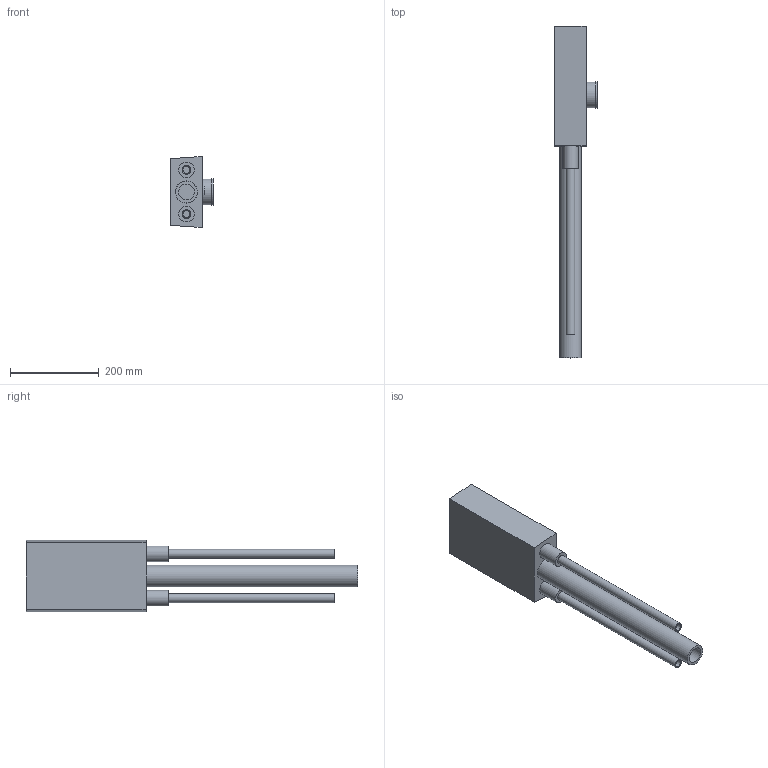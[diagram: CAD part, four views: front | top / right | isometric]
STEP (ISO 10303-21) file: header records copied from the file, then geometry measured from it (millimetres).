
FILE_DESCRIPTION(/* description */ (''),/* implementation_level */ '2;1');
FILE_NAME(/* name */ '\\lg50011\SANHA_LEGNICA\Engineering\Public\PROJEKTY\SANHA-BOX_Support_BiR\002-Rysunki_Boxów\25-WT-M\325WTM20.stp',/* time_stamp */ '2018-12-11T08:16:04+01:00',/* author */ ('grzegorz.juzak'),/* organization */ (''),/* preprocessor_version */ 'ST-DEVELOPER v17',/* originating_system */ 'Autodesk Inventor 2019',/* authorisation */ '');
FILE_SCHEMA (('AUTOMOTIVE_DESIGN { 1 0 10303 214 3 1 1 }'));
Length unit declared in the file: millimetre
Products named in the file (5): 325WTM20; Rura_50; Kolano_DN50-OD50_Master3; 325WTM20_1; Rura_20x2
Assembly tree (5 placements, depth 2):
  325WTM20
    Rura_50
    Kolano_DN50-OD50_Master3
    325WTM20_1
    Rura_20x2  x2
Bounding box: 94.93 x 746.91 x 160 mm (x, y, z)
Volume: 3474106.5 mm3; surface area: 447783.7 mm2
Topology: 5 solids, 5 shells, 128 faces, 299 edges, 202 vertices
Faces by surface type: plane 87, cylinder 22, bspline 16, cone 3
Full cylindrical faces by diameter (mm): 16 x2, 18.631 x2, 20 x4, 21 x2, 30 x1, 35 x2, 35.993 x1, 48.5 x1, 50 x1, 52.269 x1, 54 x1, 55 x2, 58 x1, 60 x1
Entity records: 3892 total; most frequent: CARTESIAN_POINT 833, ORIENTED_EDGE 586, DIRECTION 551, EDGE_CURVE 293, LINE 207, VECTOR 207, VERTEX_POINT 198, AXIS2_PLACEMENT_3D 172
